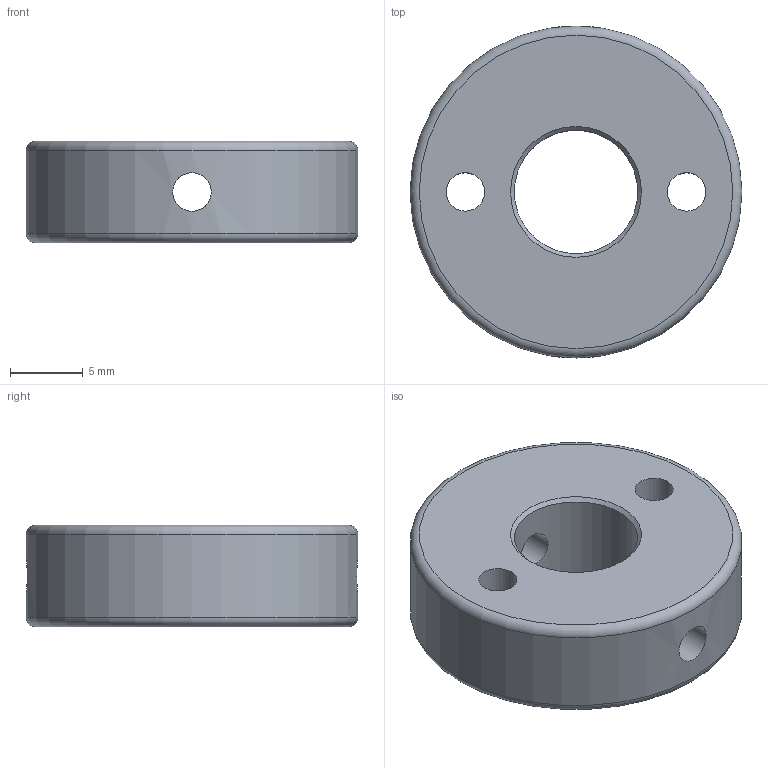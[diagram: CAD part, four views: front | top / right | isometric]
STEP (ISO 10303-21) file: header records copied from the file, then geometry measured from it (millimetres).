
FILE_DESCRIPTION(/* description */ (''),/* implementation_level */ '2;1');
FILE_NAME(/* name */ '2609_ROAM_PAYLOAD_RAIL_COLLET_3DP_REV1.step',/* time_stamp */ '2026-09-16T14:07:37-07:00',/* author */ (''),/* organization */ (''),/* preprocessor_version */ 'ST-DEVELOPER v20.2',/* originating_system */ 'Autodesk Translation Framework v15.15.0.0',/* authorisation */ '');
FILE_SCHEMA (('AUTOMOTIVE_DESIGN { 1 0 10303 214 3 1 1 }'));
Length unit declared in the file: inch
Products named in the file (1): 2026-08-26-10-38-57-494
Bounding box: 22.86 x 22.86 x 6.99 mm (x, y, z)
Volume: 2298.9 mm3; surface area: 1540.9 mm2
Topology: 1 solids, 1 shells, 12 faces, 32 edges, 22 vertices
Faces by surface type: cylinder 6, cone 2, plane 2, torus 2
Full cylindrical faces by diameter (mm): 2.652 x4, 8.509 x1, 22.86 x1
Entity records: 570 total; most frequent: CARTESIAN_POINT 203, DIRECTION 66, ORIENTED_EDGE 64, EDGE_CURVE 32, AXIS2_PLACEMENT_3D 29, EDGE_LOOP 22, VERTEX_POINT 22, CIRCLE 16
